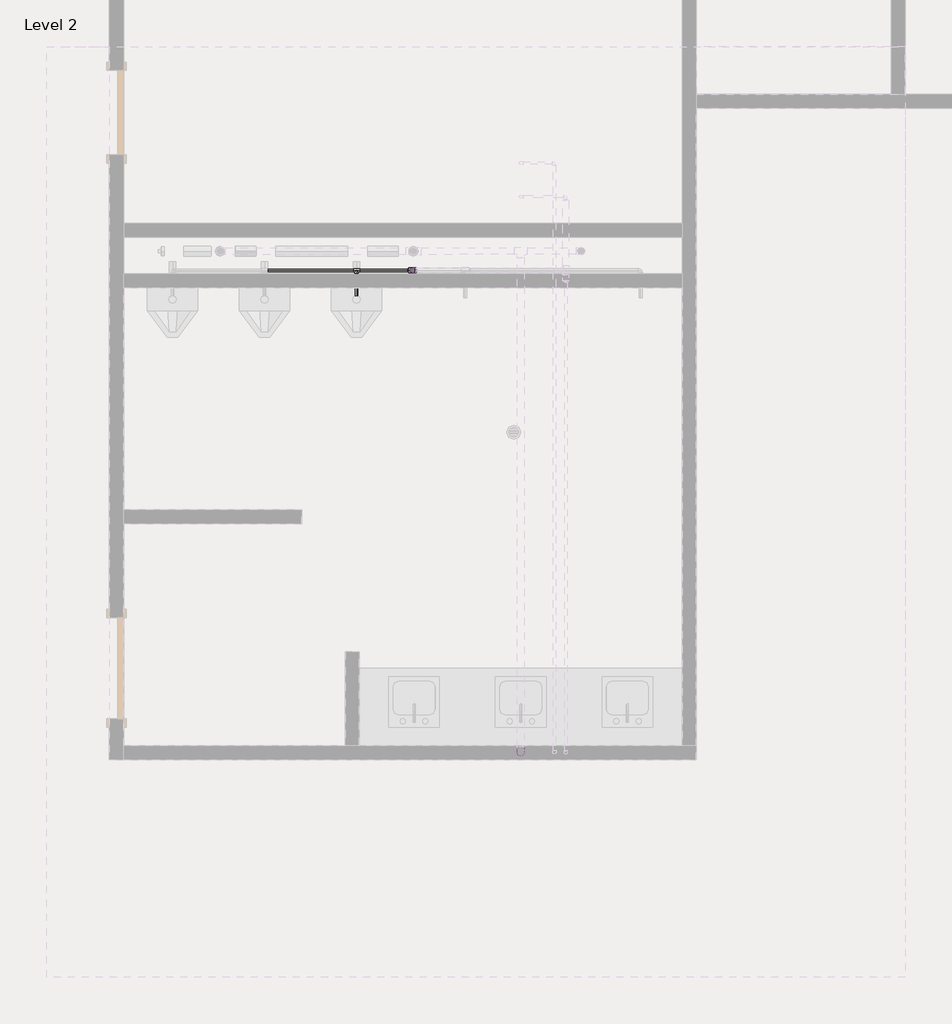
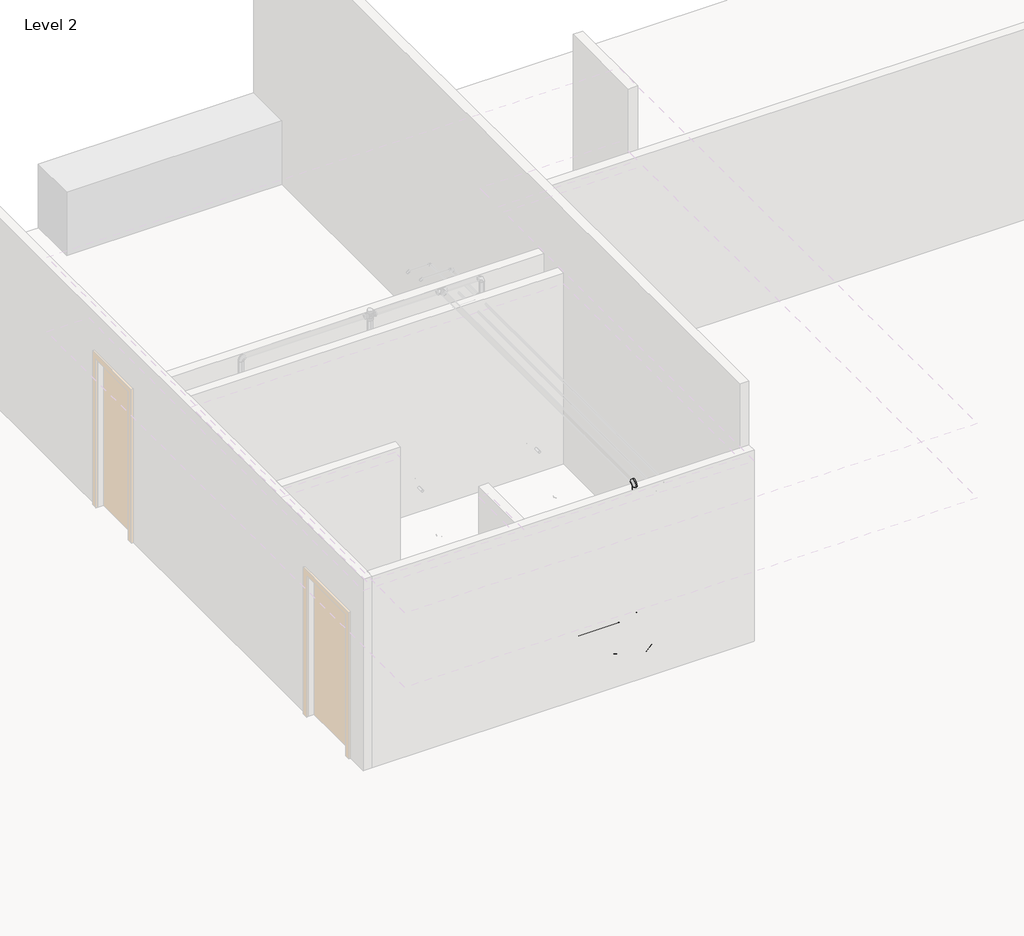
# One storey, part 3 of 5: 26 pipe segments, 24 pipe fittings.
"""IFC4 building model written with IfcOpenShell, lengths in millimetres."""

from ifc_helpers import new_model, si_unit, point, frame, frame_2d, origin, place, context, project, spatial, circle_curve, trimmed, segment, composite_curve, outline, extrude, transform, mapped, element, save
from components import pipe_elbow_standard_aad62f2d, pipe_elbow_standard_feaaf02c, pipe_elbow_standard_557be1fc, pipe_glued_dwv_bend_standard_bfc8288a, pipe_glued_dwv_bend_standard_c24f7a1e, pipe_glued_dwv_double_wye_standard_5fa96171, pipe_pvc_bend_standard_01578e85, pipe_pvc_bend_standard_4dc80f69, pipe_pvc_bend_standard_296dcabe, pipe_pvc_bend_standard_82aeff72, pipe_pvc_transition_eccentric_standard_68aae5c2, pipe_pvc_transition_eccentric_standard_dae55823, pipe_tee_standard_ee363fbf, pipe_tee_standard_7127fd44, pipe_transition_eccentric_standard_d2ed9d0f, pipe_transition_eccentric_standard_c40806be

model = new_model("IFC4")

# Units and contexts
model_context = context("Model", 3, world=origin())
ifc_project = project(units=[si_unit("LENGTHUNIT", "METRE", prefix="MILLI")], contexts=[model_context])

# Site, building, storey
site = spatial("IfcSite", under=ifc_project)
building = spatial("IfcBuilding", under=site)
storey = spatial("IfcBuildingStorey", under=building, Name="Level 2", Elevation=3657.6)

# Pipe fittings
placement = place(None, origin())
pipe_elbow_standard_shape = pipe_elbow_standard_aad62f2d(model_context)
element("IfcPipeFitting", 1, ObjectType="Pipe Elbow : Standard", at=placement, inside=storey, context=model_context, shape_type="MappedRepresentation", body=[
    mapped(pipe_elbow_standard_shape, transform((8848.7157496, 3793.5640359, 4419.6), x_axis=(0.0, 0.0, -1.0), y_axis=(0.0, -1.0, 0.0), z_axis=(-1.0, 0.0, 0.0))),
])
element("IfcPipeFitting", 2, ObjectType="Pipe Elbow : Standard", at=placement, inside=storey, context=model_context, shape_type="MappedRepresentation", body=[
    mapped(pipe_elbow_standard_shape, transform((8086.7157496, 3793.5640359, 4522.7875), x_axis=(0.0, 0.0, -1.0), y_axis=(0.0, -1.0, 0.0), z_axis=(-1.0, 0.0, 0.0))),
])
element("IfcPipeFitting", 3, ObjectType="Pipe Elbow : Standard", at=placement, inside=storey, context=model_context, shape_type="MappedRepresentation", body=[
    mapped(pipe_elbow_standard_shape, transform((8086.7157496, 3590.3640359, 4522.7875), x_axis=(0.0, -1.0, 0.0), y_axis=(1.0, 0.0, 0.0), z_axis=(0.0, 0.0, 1.0))),
])
pipe_elbow_standard_2_shape = pipe_elbow_standard_feaaf02c(model_context)
element("IfcPipeFitting", 4, ObjectType="Pipe Elbow : Standard", at=placement, inside=storey, context=model_context, shape_type="MappedRepresentation", body=[
    mapped(pipe_elbow_standard_2_shape, transform((7464.487817, 7611.3193018, 4679.1562398), x_axis=(0.0, -1.0, 0.0), y_axis=(0.0, 0.0, -1.0), z_axis=(1.0, 0.0, 0.0))),
])
pipe_elbow_standard_3_shape = pipe_elbow_standard_557be1fc(model_context)
element("IfcPipeFitting", 5, ObjectType="Pipe Elbow : Standard", at=placement, inside=storey, context=model_context, shape_type="MappedRepresentation", body=[
    mapped(pipe_elbow_standard_3_shape, transform((7972.4157496, 7874.3862233, 6324.6), x_axis=(0.0, 0.0, 1.0), y_axis=(1.0, 0.0, 0.0), z_axis=(0.0, 1.0, 0.0))),
])
element("IfcPipeFitting", 6, ObjectType="Pipe Elbow : Standard", at=placement, inside=storey, context=model_context, shape_type="MappedRepresentation", body=[
    mapped(pipe_elbow_standard_3_shape, transform((7972.4157496, 7874.3862233, 4013.2), x_axis=(0.0, 0.0, -1.0), y_axis=(1.0, 0.0, 0.0), z_axis=(0.0, -1.0, 0.0))),
])
pipe_glued_dwv_bend_standard_shape = pipe_glued_dwv_bend_standard_bfc8288a(model_context)
element("IfcPipeFitting", 7, ObjectType="Pipe Glued DWV Bend : Standard", at=placement, inside=storey, context=model_context, shape_type="MappedRepresentation", body=[
    mapped(pipe_glued_dwv_bend_standard_shape, transform((8696.3157496, 3510.4099268, 4114.8), x_axis=(0.9999457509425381, 0.0, -0.010416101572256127), y_axis=(-0.010416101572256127, 0.0, -0.9999457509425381), z_axis=(0.0, 1.0, 0.0))),
])
element("IfcPipeFitting", 8, ObjectType="Pipe Glued DWV Bend : Standard", at=placement, inside=storey, context=model_context, shape_type="MappedRepresentation", body=[
    mapped(pipe_glued_dwv_bend_standard_shape, transform((9204.3157496, 3510.4099268, 4114.8), x_axis=(-0.9999457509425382, 0.0, -0.010416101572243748), y_axis=(0.010416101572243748, 0.0, -0.9999457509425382), z_axis=(0.0, -1.0, 0.0))),
])
pipe_glued_dwv_bend_standard_2_shape = pipe_glued_dwv_bend_standard_c24f7a1e(model_context)
element("IfcPipeFitting", 9, ObjectType="Pipe Glued DWV Bend : Standard", at=placement, inside=storey, context=model_context, shape_type="MappedRepresentation", body=[
    mapped(pipe_glued_dwv_bend_standard_2_shape, transform((8950.3157496, 3510.4099268, 3361.0335373), x_axis=(0.0, 0.0, -1.0), y_axis=(1.0, 0.0, 0.0), z_axis=(0.0, -1.0, 0.0))),
])
pipe_glued_dwv_double_wye_standard_shape = pipe_glued_dwv_double_wye_standard_5fa96171(model_context)
element("IfcPipeFitting", 10, ObjectType="Pipe Glued DWV Double Wye : Standard", at=placement, inside=storey, context=model_context, shape_type="MappedRepresentation", body=[
    mapped(pipe_glued_dwv_double_wye_standard_shape, transform((8950.3157496, 3510.4099268, 3860.8), x_axis=(0.0, 0.0, 1.0), y_axis=(-1.0, 0.0, 0.0), z_axis=(0.0, -1.0, 0.0))),
])
pipe_pvc_bend_standard_shape = pipe_pvc_bend_standard_01578e85(model_context)
element("IfcPipeFitting", 11, ObjectType="Pipe PVC Bend : Standard", at=placement, inside=storey, context=model_context, shape_type="MappedRepresentation", body=[
    mapped(pipe_pvc_bend_standard_shape, transform((9915.5157496, 3510.4099268, 4122.2083333), x_axis=(0.9999457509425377, 0.0, 0.010416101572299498), y_axis=(-0.00010848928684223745, 0.9999457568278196, 0.010414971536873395), z_axis=(-0.010415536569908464, -0.010415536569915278, 0.9998915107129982))),
])
pipe_pvc_bend_standard_2_shape = pipe_pvc_bend_standard_4dc80f69(model_context)
element("IfcPipeFitting", 12, ObjectType="Pipe PVC Bend : Standard", at=placement, inside=storey, context=model_context, shape_type="MappedRepresentation", body=[
    mapped(pipe_pvc_bend_standard_2_shape, transform((9915.5157496, 3967.6099268, 4126.9708333), x_axis=(0.0, 0.0, -1.0), y_axis=(0.0, -1.0, 0.0), z_axis=(-1.0, 0.0, 0.0))),
])
element("IfcPipeFitting", 13, ObjectType="Pipe PVC Bend : Standard", at=placement, inside=storey, context=model_context, shape_type="MappedRepresentation", body=[
    mapped(pipe_pvc_bend_standard_2_shape, transform((8950.3157496, 3967.6099268, 4115.2167187), x_axis=(0.0, 0.0, -1.0), y_axis=(0.0, -1.0, 0.0), z_axis=(-1.0, 0.0, 0.0))),
])
pipe_pvc_bend_standard_3_shape = pipe_pvc_bend_standard_296dcabe(model_context)
element("IfcPipeFitting", 14, ObjectType="Pipe PVC Bend : Standard", at=placement, inside=storey, context=model_context, shape_type="MappedRepresentation", body=[
    mapped(pipe_pvc_bend_standard_3_shape, transform((7464.441933, 7645.4382598, 3967.9635079), x_axis=(0.0, 0.0, -1.0), y_axis=(3.4592345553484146e-05, 0.9999999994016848, 0.0), z_axis=(0.9999999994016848, -3.4592345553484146e-05, 0.0))),
])
pipe_pvc_bend_standard_4_shape = pipe_pvc_bend_standard_82aeff72(model_context)
element("IfcPipeFitting", 15, ObjectType="Pipe PVC Bend : Standard", at=placement, inside=storey, context=model_context, shape_type="MappedRepresentation", body=[
    mapped(pipe_pvc_bend_standard_4_shape, transform((8950.2947657, 3510.4099268, 6451.6), x_axis=(0.0, 0.0, 1.0), y_axis=(0.0, 1.0, 0.0), z_axis=(-1.0, 0.0, 0.0))),
])
pipe_pvc_transition_eccentric_standard_shape = pipe_pvc_transition_eccentric_standard_68aae5c2(model_context)
element("IfcPipeFitting", 16, ObjectType="Pipe PVC Transition Eccentric : Standard", at=placement, inside=storey, context=model_context, shape_type="MappedRepresentation", body=[
    mapped(pipe_pvc_transition_eccentric_standard_shape, transform((8950.3157496, 3595.1824268, 4110.4542188), x_axis=(0.0, 0.9999146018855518, 0.013068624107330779), y_axis=(0.0, 0.013068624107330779, -0.9999146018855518), z_axis=(-1.0, 0.0, 0.0))),
])
pipe_pvc_transition_eccentric_standard_2_shape = pipe_pvc_transition_eccentric_standard_dae55823(model_context)
element("IfcPipeFitting", 17, ObjectType="Pipe PVC Transition Eccentric : Standard", at=placement, inside=storey, context=model_context, shape_type="MappedRepresentation", body=[
    mapped(pipe_pvc_transition_eccentric_standard_2_shape, transform((8829.643558, 3510.4099268, 3981.4721916), x_axis=(0.7071067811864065, 0.0, -0.7071067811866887), y_axis=(0.0, -1.0, 0.0), z_axis=(-0.7071067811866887, 0.0, -0.7071067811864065))),
])
element("IfcPipeFitting", 18, ObjectType="Pipe PVC Transition Eccentric : Standard", at=placement, inside=storey, context=model_context, shape_type="MappedRepresentation", body=[
    mapped(pipe_pvc_transition_eccentric_standard_2_shape, transform((9070.9879413, 3510.4099268, 3981.4721916), x_axis=(-0.7071067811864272, 0.0, -0.7071067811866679), y_axis=(0.0, 1.0000000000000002, 0.0), z_axis=(0.7071067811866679, 0.0, -0.7071067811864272))),
])
pipe_tee_standard_shape = pipe_tee_standard_ee363fbf(model_context)
element("IfcPipeFitting", 19, ObjectType="Pipe Tee : Standard", at=placement, inside=storey, context=model_context, shape_type="MappedRepresentation", body=[
    mapped(pipe_tee_standard_shape, transform((8848.7157496, 3641.1640359, 4419.6), x_axis=(-1.0, 0.0, 0.0), y_axis=(0.0, -1.0, 0.0), z_axis=(0.0, 0.0, 1.0))),
])
element("IfcPipeFitting", 20, ObjectType="Pipe Tee : Standard", at=placement, inside=storey, context=model_context, shape_type="MappedRepresentation", body=[
    mapped(pipe_tee_standard_shape, transform((7464.487817, 7874.3862233, 4679.1562398), x_axis=(-1.0, 0.0, 0.0), y_axis=(0.0, 1.0, 0.0), z_axis=(0.0, 0.0, -1.0))),
])
pipe_tee_standard_2_shape = pipe_tee_standard_7127fd44(model_context)
element("IfcPipeFitting", 21, ObjectType="Pipe Tee : Standard", at=placement, inside=storey, context=model_context, shape_type="MappedRepresentation", body=[
    mapped(pipe_tee_standard_2_shape, transform((7972.4157496, 7874.3862233, 4679.1562398), x_axis=(0.0, 0.0, -1.0), y_axis=(1.0, 0.0, 0.0), z_axis=(0.0, -1.0, 0.0))),
])
pipe_transition_eccentric_standard_shape = pipe_transition_eccentric_standard_d2ed9d0f(model_context)
element("IfcPipeFitting", 22, ObjectType="Pipe Transition Eccentric : Standard", at=placement, inside=storey, context=model_context, shape_type="MappedRepresentation", body=[
    mapped(pipe_transition_eccentric_standard_shape, transform((7935.9032496, 7874.3862233, 4679.1562398), x_axis=(-1.0, 0.0, 0.0), y_axis=(0.0, 0.0, 1.0), z_axis=(0.0, 1.0, 0.0))),
])
pipe_transition_eccentric_standard_2_shape = pipe_transition_eccentric_standard_c40806be(model_context)
element("IfcPipeFitting", 23, ObjectType="Pipe Transition Eccentric : Standard", at=placement, inside=storey, context=model_context, shape_type="MappedRepresentation", body=[
    mapped(pipe_transition_eccentric_standard_2_shape, transform((8821.7282496, 3641.1640359, 4419.6), x_axis=(-1.0, 0.0, 0.0), y_axis=(0.0, -1.0, 0.0), z_axis=(0.0, 0.0, 1.0))),
])
element("IfcPipeFitting", 24, ObjectType="Pipe Transition Eccentric : Standard", at=placement, inside=storey, context=model_context, shape_type="MappedRepresentation", body=[
    mapped(pipe_transition_eccentric_standard_2_shape, transform((8848.7157496, 3668.1515359, 4419.6), x_axis=(0.0, 1.0, 0.0), y_axis=(-1.0, 0.0, 0.0), z_axis=(0.0, 0.0, 1.0))),
])

# Pipe segments
element("IfcPipeSegment", 25, ObjectType="Cold Water", at=placement, inside=storey, context=model_context, shape_type="SweptSolid", body=[
    extrude(outline(composite_curve([segment(trimmed(circle_curve(frame_2d((3641.1640359, 4419.6)), 7.9375), [point((3633.2265359, 4419.6))], [point((3641.1640359, 4427.5375))], False, "CARTESIAN"), True, "CONTINUOUS"), segment(trimmed(circle_curve(frame_2d((3641.1640359, 4419.6)), 7.9375), [point((3641.1640359, 4427.5375))], [point((3649.1015359, 4419.6))], False, "CARTESIAN"), True, "CONTINUOUS"), segment(trimmed(circle_curve(frame_2d((3641.1640359, 4419.6)), 7.9375), [point((3649.1015359, 4419.6))], [point((3641.1640359, 4411.6625))], False, "CARTESIAN"), True, "CONTINUOUS"), segment(trimmed(circle_curve(frame_2d((3641.1640359, 4419.6)), 7.9375), [point((3641.1640359, 4411.6625))], [point((3633.2265359, 4419.6))], False, "CARTESIAN"), True, "CONTINUOUS")], self_intersect=False)), frame((9391.4243211, 0.0, 0.0), z_axis=(1.0, 0.0, 0.0), x_axis=(0.0, 1.0, 0.0)), (0.0, 0.0, 1.0), 405.0289285),
])
element("IfcPipeSegment", 26, ObjectType="Cold Water", at=placement, inside=storey, context=model_context, shape_type="SweptSolid", body=[
    extrude(outline(composite_curve([segment(trimmed(circle_curve(frame_2d((4419.6, 9813.9157496)), 7.9375), [point((4419.6, 9805.9782496))], [point((4411.6625, 9813.9157496))], False, "CARTESIAN"), True, "CONTINUOUS"), segment(trimmed(circle_curve(frame_2d((4419.6, 9813.9157496)), 7.9375), [point((4411.6625, 9813.9157496))], [point((4419.6, 9821.8532496))], False, "CARTESIAN"), True, "CONTINUOUS"), segment(trimmed(circle_curve(frame_2d((4419.6, 9813.9157496)), 7.9375), [point((4419.6, 9821.8532496))], [point((4427.5375, 9813.9157496))], False, "CARTESIAN"), True, "CONTINUOUS"), segment(trimmed(circle_curve(frame_2d((4419.6, 9813.9157496)), 7.9375), [point((4427.5375, 9813.9157496))], [point((4419.6, 9805.9782496))], False, "CARTESIAN"), True, "CONTINUOUS")], self_intersect=False)), frame((0.0, 3658.6265359, 0.0), z_axis=(0.0, 1.0, 0.0), x_axis=(0.0, 0.0, 1.0)), (0.0, 0.0, 1.0), 117.475),
])
element("IfcPipeSegment", 27, ObjectType="Cold Water", at=placement, inside=storey, context=model_context, shape_type="SweptSolid", body=[
    extrude(outline(composite_curve([segment(trimmed(circle_curve(frame_2d((9813.9157496, 3793.5640359)), 7.9375), [point((9821.8532496, 3793.5640359))], [point((9813.9157496, 3785.6265359))], False, "CARTESIAN"), True, "CONTINUOUS"), segment(trimmed(circle_curve(frame_2d((9813.9157496, 3793.5640359)), 7.9375), [point((9813.9157496, 3785.6265359))], [point((9805.9782496, 3793.5640359))], False, "CARTESIAN"), True, "CONTINUOUS"), segment(trimmed(circle_curve(frame_2d((9813.9157496, 3793.5640359)), 7.9375), [point((9805.9782496, 3793.5640359))], [point((9813.9157496, 3801.5015359))], False, "CARTESIAN"), True, "CONTINUOUS"), segment(trimmed(circle_curve(frame_2d((9813.9157496, 3793.5640359)), 7.9375), [point((9813.9157496, 3801.5015359))], [point((9821.8532496, 3793.5640359))], False, "CARTESIAN"), True, "CONTINUOUS")], self_intersect=False)), frame((0.0, 0.0, 4437.0625), z_axis=(0.0, 0.0, 1.0), x_axis=(1.0, 0.0, 0.0)), (0.0, 0.0, 1.0), 134.9375),
])
element("IfcPipeSegment", 28, ObjectType="Cold Water", at=placement, inside=storey, context=model_context, shape_type="SweptSolid", body=[
    extrude(outline(composite_curve([segment(trimmed(circle_curve(frame_2d((8848.7157496, 3793.5640359)), 7.9375), [point((8856.6532496, 3793.5640359))], [point((8848.7157496, 3785.6265359))], False, "CARTESIAN"), True, "CONTINUOUS"), segment(trimmed(circle_curve(frame_2d((8848.7157496, 3793.5640359)), 7.9375), [point((8848.7157496, 3785.6265359))], [point((8840.7782496, 3793.5640359))], False, "CARTESIAN"), True, "CONTINUOUS"), segment(trimmed(circle_curve(frame_2d((8848.7157496, 3793.5640359)), 7.9375), [point((8840.7782496, 3793.5640359))], [point((8848.7157496, 3801.5015359))], False, "CARTESIAN"), True, "CONTINUOUS"), segment(trimmed(circle_curve(frame_2d((8848.7157496, 3793.5640359)), 7.9375), [point((8848.7157496, 3801.5015359))], [point((8856.6532496, 3793.5640359))], False, "CARTESIAN"), True, "CONTINUOUS")], self_intersect=False)), frame((0.0, 0.0, 4437.0625), z_axis=(0.0, 0.0, 1.0), x_axis=(1.0, 0.0, 0.0)), (0.0, 0.0, 1.0), 134.9375),
])
element("IfcPipeSegment", 29, ObjectType="Cold Water", at=placement, inside=storey, context=model_context, shape_type="SweptSolid", body=[
    extrude(outline(composite_curve([segment(trimmed(circle_curve(frame_2d((4419.6, 8848.7157496)), 7.9375), [point((4419.6, 8840.7782496))], [point((4411.6625, 8848.7157496))], False, "CARTESIAN"), True, "CONTINUOUS"), segment(trimmed(circle_curve(frame_2d((4419.6, 8848.7157496)), 7.9375), [point((4411.6625, 8848.7157496))], [point((4419.6, 8856.6532496))], False, "CARTESIAN"), True, "CONTINUOUS"), segment(trimmed(circle_curve(frame_2d((4419.6, 8848.7157496)), 7.9375), [point((4419.6, 8856.6532496))], [point((4427.5375, 8848.7157496))], False, "CARTESIAN"), True, "CONTINUOUS"), segment(trimmed(circle_curve(frame_2d((4419.6, 8848.7157496)), 7.9375), [point((4427.5375, 8848.7157496))], [point((4419.6, 8840.7782496))], False, "CARTESIAN"), True, "CONTINUOUS")], self_intersect=False)), frame((0.0, 3673.7077859, 0.0), z_axis=(0.0, 1.0, 0.0), x_axis=(0.0, 0.0, 1.0)), (0.0, 0.0, 1.0), 102.39375),
])
element("IfcPipeSegment", 30, ObjectType="Cold Water", at=placement, inside=storey, context=model_context, shape_type="SweptSolid", body=[
    extrude(outline(composite_curve([segment(trimmed(circle_curve(frame_2d((3641.1640359, 4419.6)), 7.9375), [point((3633.2265359, 4419.6))], [point((3641.1640359, 4427.5375))], False, "CARTESIAN"), True, "CONTINUOUS"), segment(trimmed(circle_curve(frame_2d((3641.1640359, 4419.6)), 7.9375), [point((3641.1640359, 4427.5375))], [point((3649.1015359, 4419.6))], False, "CARTESIAN"), True, "CONTINUOUS"), segment(trimmed(circle_curve(frame_2d((3641.1640359, 4419.6)), 7.9375), [point((3649.1015359, 4419.6))], [point((3641.1640359, 4411.6625))], False, "CARTESIAN"), True, "CONTINUOUS"), segment(trimmed(circle_curve(frame_2d((3641.1640359, 4419.6)), 7.9375), [point((3641.1640359, 4411.6625))], [point((3633.2265359, 4419.6))], False, "CARTESIAN"), True, "CONTINUOUS")], self_intersect=False)), frame((7900.9782496, 0.0, 0.0), z_axis=(1.0, 0.0, 0.0), x_axis=(0.0, 1.0, 0.0)), (0.0, 0.0, 1.0), 915.19375),
])
element("IfcPipeSegment", 31, ObjectType="Cold Water", at=placement, inside=storey, context=model_context, shape_type="SweptSolid", body=[
    extrude(outline(composite_curve([segment(trimmed(circle_curve(frame_2d((7972.4157496, 7874.3862233)), 20.6375), [point((7951.7782496, 7874.3862233))], [point((7972.4157496, 7895.0237233))], False, "CARTESIAN"), True, "CONTINUOUS"), segment(trimmed(circle_curve(frame_2d((7972.4157496, 7874.3862233)), 20.6375), [point((7972.4157496, 7895.0237233))], [point((7993.0532496, 7874.3862233))], False, "CARTESIAN"), True, "CONTINUOUS"), segment(trimmed(circle_curve(frame_2d((7972.4157496, 7874.3862233)), 20.6375), [point((7993.0532496, 7874.3862233))], [point((7972.4157496, 7853.7487233))], False, "CARTESIAN"), True, "CONTINUOUS"), segment(trimmed(circle_curve(frame_2d((7972.4157496, 7874.3862233)), 20.6375), [point((7972.4157496, 7853.7487233))], [point((7951.7782496, 7874.3862233))], False, "CARTESIAN"), True, "CONTINUOUS")], self_intersect=False)), frame((0.0, 0.0, 4715.6687398), z_axis=(0.0, 0.0, 1.0), x_axis=(1.0, 0.0, 0.0)), (0.0, 0.0, 1.0), 1578.7687602),
])
element("IfcPipeSegment", 32, ObjectType="Cold Water", at=placement, inside=storey, context=model_context, shape_type="SweptSolid", body=[
    extrude(outline(composite_curve([segment(trimmed(circle_curve(frame_2d((7972.4157496, 7874.3862233)), 20.6375), [point((7951.7782496, 7874.3862233))], [point((7972.4157496, 7895.0237233))], False, "CARTESIAN"), True, "CONTINUOUS"), segment(trimmed(circle_curve(frame_2d((7972.4157496, 7874.3862233)), 20.6375), [point((7972.4157496, 7895.0237233))], [point((7993.0532496, 7874.3862233))], False, "CARTESIAN"), True, "CONTINUOUS"), segment(trimmed(circle_curve(frame_2d((7972.4157496, 7874.3862233)), 20.6375), [point((7993.0532496, 7874.3862233))], [point((7972.4157496, 7853.7487233))], False, "CARTESIAN"), True, "CONTINUOUS"), segment(trimmed(circle_curve(frame_2d((7972.4157496, 7874.3862233)), 20.6375), [point((7972.4157496, 7853.7487233))], [point((7951.7782496, 7874.3862233))], False, "CARTESIAN"), True, "CONTINUOUS")], self_intersect=False)), frame((0.0, 0.0, 4043.3625), z_axis=(0.0, 0.0, 1.0), x_axis=(1.0, 0.0, 0.0)), (0.0, 0.0, 1.0), 599.2812398),
])
element("IfcPipeSegment", 33, ObjectType="Cold Water", at=placement, inside=storey, context=model_context, shape_type="SweptSolid", body=[
    extrude(outline(composite_curve([segment(trimmed(circle_curve(frame_2d((7874.3862233, 4679.1562398)), 11.1125), [point((7885.4987233, 4679.1562398))], [point((7874.3862233, 4668.0437398))], False, "CARTESIAN"), True, "CONTINUOUS"), segment(trimmed(circle_curve(frame_2d((7874.3862233, 4679.1562398)), 11.1125), [point((7874.3862233, 4668.0437398))], [point((7863.2737233, 4679.1562398))], False, "CARTESIAN"), True, "CONTINUOUS"), segment(trimmed(circle_curve(frame_2d((7874.3862233, 4679.1562398)), 11.1125), [point((7863.2737233, 4679.1562398))], [point((7874.3862233, 4690.2687398))], False, "CARTESIAN"), True, "CONTINUOUS"), segment(trimmed(circle_curve(frame_2d((7874.3862233, 4679.1562398)), 11.1125), [point((7874.3862233, 4690.2687398))], [point((7885.4987233, 4679.1562398))], False, "CARTESIAN"), True, "CONTINUOUS")], self_intersect=False)), frame((6659.6250309, 0.0, 0.0), z_axis=(1.0, 0.0, 0.0), x_axis=(0.0, 1.0, 0.0)), (0.0, 0.0, 1.0), 777.8752861),
])
element("IfcPipeSegment", 34, ObjectType="Cold Water", at=placement, inside=storey, context=model_context, shape_type="SweptSolid", body=[
    extrude(outline(composite_curve([segment(trimmed(circle_curve(frame_2d((7464.487817, 7611.3193018)), 11.1125), [point((7453.375317, 7611.3193018))], [point((7464.487817, 7622.4318018))], False, "CARTESIAN"), True, "CONTINUOUS"), segment(trimmed(circle_curve(frame_2d((7464.487817, 7611.3193018)), 11.1125), [point((7464.487817, 7622.4318018))], [point((7475.600317, 7611.3193018))], False, "CARTESIAN"), True, "CONTINUOUS"), segment(trimmed(circle_curve(frame_2d((7464.487817, 7611.3193018)), 11.1125), [point((7475.600317, 7611.3193018))], [point((7464.487817, 7600.2068018))], False, "CARTESIAN"), True, "CONTINUOUS"), segment(trimmed(circle_curve(frame_2d((7464.487817, 7611.3193018)), 11.1125), [point((7464.487817, 7600.2068018))], [point((7453.375317, 7611.3193018))], False, "CARTESIAN"), True, "CONTINUOUS")], self_intersect=False)), frame((0.0, 0.0, 4633.11875), z_axis=(0.0, 0.0, 1.0), x_axis=(1.0, 0.0, 0.0)), (0.0, 0.0, 1.0), 25.3999898),
])
element("IfcPipeSegment", 35, ObjectType="Cold Water", at=placement, inside=storey, context=model_context, shape_type="SweptSolid", body=[
    extrude(outline(composite_curve([segment(trimmed(circle_curve(frame_2d((4679.1562398, 7464.487817)), 11.1125), [point((4679.1562398, 7475.600317))], [point((4690.2687398, 7464.487817))], False, "CARTESIAN"), True, "CONTINUOUS"), segment(trimmed(circle_curve(frame_2d((4679.1562398, 7464.487817)), 11.1125), [point((4690.2687398, 7464.487817))], [point((4679.1562398, 7453.375317))], False, "CARTESIAN"), True, "CONTINUOUS"), segment(trimmed(circle_curve(frame_2d((4679.1562398, 7464.487817)), 11.1125), [point((4679.1562398, 7453.375317))], [point((4668.0437398, 7464.487817))], False, "CARTESIAN"), True, "CONTINUOUS"), segment(trimmed(circle_curve(frame_2d((4679.1562398, 7464.487817)), 11.1125), [point((4668.0437398, 7464.487817))], [point((4679.1562398, 7475.600317))], False, "CARTESIAN"), True, "CONTINUOUS")], self_intersect=False)), frame((0.0, 7631.9568018, 0.0), z_axis=(0.0, 1.0, 0.0), x_axis=(0.0, 0.0, 1.0)), (0.0, 0.0, 1.0), 215.4419215),
])
element("IfcPipeSegment", 36, ObjectType="Cold Water", at=placement, inside=storey, context=model_context, shape_type="SweptSolid", body=[
    extrude(outline(composite_curve([segment(trimmed(circle_curve(frame_2d((7874.3862233, 4679.1562398)), 11.1125), [point((7885.4987233, 4679.1562398))], [point((7874.3862233, 4668.0437398))], False, "CARTESIAN"), True, "CONTINUOUS"), segment(trimmed(circle_curve(frame_2d((7874.3862233, 4679.1562398)), 11.1125), [point((7874.3862233, 4668.0437398))], [point((7863.2737233, 4679.1562398))], False, "CARTESIAN"), True, "CONTINUOUS"), segment(trimmed(circle_curve(frame_2d((7874.3862233, 4679.1562398)), 11.1125), [point((7863.2737233, 4679.1562398))], [point((7874.3862233, 4690.2687398))], False, "CARTESIAN"), True, "CONTINUOUS"), segment(trimmed(circle_curve(frame_2d((7874.3862233, 4679.1562398)), 11.1125), [point((7874.3862233, 4690.2687398))], [point((7885.4987233, 4679.1562398))], False, "CARTESIAN"), True, "CONTINUOUS")], self_intersect=False)), frame((7491.475317, 0.0, 0.0), z_axis=(1.0, 0.0, 0.0), x_axis=(0.0, 1.0, 0.0)), (0.0, 0.0, 1.0), 434.1091827),
])
element("IfcPipeSegment", 37, ObjectType="Hot Water", at=placement, inside=storey, context=model_context, shape_type="SweptSolid", body=[
    extrude(outline(composite_curve([segment(trimmed(circle_curve(frame_2d((4522.7875, 8086.7157496)), 7.9375), [point((4522.7875, 8078.7782496))], [point((4514.85, 8086.7157496))], False, "CARTESIAN"), True, "CONTINUOUS"), segment(trimmed(circle_curve(frame_2d((4522.7875, 8086.7157496)), 7.9375), [point((4514.85, 8086.7157496))], [point((4522.7875, 8094.6532496))], False, "CARTESIAN"), True, "CONTINUOUS"), segment(trimmed(circle_curve(frame_2d((4522.7875, 8086.7157496)), 7.9375), [point((4522.7875, 8094.6532496))], [point((4530.725, 8086.7157496))], False, "CARTESIAN"), True, "CONTINUOUS"), segment(trimmed(circle_curve(frame_2d((4522.7875, 8086.7157496)), 7.9375), [point((4530.725, 8086.7157496))], [point((4522.7875, 8078.7782496))], False, "CARTESIAN"), True, "CONTINUOUS")], self_intersect=False)), frame((0.0, 3607.8265359, 0.0), z_axis=(0.0, 1.0, 0.0), x_axis=(0.0, 0.0, 1.0)), (0.0, 0.0, 1.0), 168.275),
])
element("IfcPipeSegment", 38, ObjectType="Hot Water", at=placement, inside=storey, context=model_context, shape_type="SweptSolid", body=[
    extrude(outline(composite_curve([segment(trimmed(circle_curve(frame_2d((3590.3640359, 4522.7875)), 7.9375), [point((3582.4265359, 4522.7875))], [point((3590.3640359, 4530.725))], False, "CARTESIAN"), True, "CONTINUOUS"), segment(trimmed(circle_curve(frame_2d((3590.3640359, 4522.7875)), 7.9375), [point((3590.3640359, 4530.725))], [point((3598.3015359, 4522.7875))], False, "CARTESIAN"), True, "CONTINUOUS"), segment(trimmed(circle_curve(frame_2d((3590.3640359, 4522.7875)), 7.9375), [point((3598.3015359, 4522.7875))], [point((3590.3640359, 4514.85))], False, "CARTESIAN"), True, "CONTINUOUS"), segment(trimmed(circle_curve(frame_2d((3590.3640359, 4522.7875)), 7.9375), [point((3590.3640359, 4514.85))], [point((3582.4265359, 4522.7875))], False, "CARTESIAN"), True, "CONTINUOUS")], self_intersect=False)), frame((8104.1782496, 0.0, 0.0), z_axis=(1.0, 0.0, 0.0), x_axis=(0.0, 1.0, 0.0)), (0.0, 0.0, 1.0), 923.925),
])
element("IfcPipeSegment", 39, ObjectType="PVC Sanitary", at=placement, inside=storey, context=model_context, shape_type="SweptSolid", body=[
    extrude(outline(composite_curve([segment(trimmed(circle_curve(frame_2d((0.0, 30.1625)), 30.1625), [point((0.0, 60.325))], [point((30.1625, 30.1625))], False, "CARTESIAN"), True, "CONTINUOUS"), segment(trimmed(circle_curve(frame_2d((0.0, 30.1625)), 30.1625), [point((30.1625, 30.1625))], [point((0.0, 0.0))], False, "CARTESIAN"), True, "CONTINUOUS"), segment(trimmed(circle_curve(frame_2d((0.0, 30.1625)), 30.1625), [point((0.0, 0.0))], [point((-30.1624999, 30.1625))], False, "CARTESIAN"), True, "CONTINUOUS"), segment(trimmed(circle_curve(frame_2d((0.0, 30.1625)), 30.1625), [point((-30.1624999, 30.1625))], [point((0.0, 60.325))], False, "CARTESIAN"), True, "CONTINUOUS")], self_intersect=False)), frame((10427.0955157, 3480.2481959, 3345.8862182), z_axis=(-0.9999461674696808, 0.0, 0.010376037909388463), x_axis=(0.010376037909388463, 0.0, 0.9999461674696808)), (0.0, 0.0, 1.0), 1336.7826028),
])
element("IfcPipeSegment", 40, ObjectType="PVC Sanitary", at=placement, inside=storey, context=model_context, shape_type="SweptSolid", body=[
    extrude(outline(composite_curve([segment(trimmed(circle_curve(frame_2d((8950.3157496, 3967.6099268)), 24.13), [point((8974.4457496, 3967.6099268))], [point((8950.3157496, 3943.4799268))], False, "CARTESIAN"), True, "CONTINUOUS"), segment(trimmed(circle_curve(frame_2d((8950.3157496, 3967.6099268)), 24.13), [point((8950.3157496, 3943.4799268))], [point((8926.1857496, 3967.6099268))], False, "CARTESIAN"), True, "CONTINUOUS"), segment(trimmed(circle_curve(frame_2d((8950.3157496, 3967.6099268)), 24.13), [point((8926.1857496, 3967.6099268))], [point((8950.3157496, 3991.7399268))], False, "CARTESIAN"), True, "CONTINUOUS"), segment(trimmed(circle_curve(frame_2d((8950.3157496, 3967.6099268)), 24.13), [point((8950.3157496, 3991.7399268))], [point((8974.4457496, 3967.6099268))], False, "CARTESIAN"), True, "CONTINUOUS")], self_intersect=False)), frame((0.0, 0.0, 4154.8071704), z_axis=(0.0, 0.0, 1.0), x_axis=(1.0, 0.0, 0.0)), (0.0, 0.0, 1.0), 204.4678296),
])
element("IfcPipeSegment", 41, ObjectType="PVC Sanitary", at=placement, inside=storey, context=model_context, shape_type="SweptSolid", body=[
    extrude(outline(composite_curve([segment(trimmed(circle_curve(frame_2d((9915.5157496, 3967.6099268)), 24.13), [point((9939.6457496, 3967.6099268))], [point((9915.5157496, 3943.4799268))], False, "CARTESIAN"), True, "CONTINUOUS"), segment(trimmed(circle_curve(frame_2d((9915.5157496, 3967.6099268)), 24.13), [point((9915.5157496, 3943.4799268))], [point((9891.3857496, 3967.6099268))], False, "CARTESIAN"), True, "CONTINUOUS"), segment(trimmed(circle_curve(frame_2d((9915.5157496, 3967.6099268)), 24.13), [point((9891.3857496, 3967.6099268))], [point((9915.5157496, 3991.7399268))], False, "CARTESIAN"), True, "CONTINUOUS"), segment(trimmed(circle_curve(frame_2d((9915.5157496, 3967.6099268)), 24.13), [point((9915.5157496, 3991.7399268))], [point((9939.6457496, 3967.6099268))], False, "CARTESIAN"), True, "CONTINUOUS")], self_intersect=False)), frame((0.0, 0.0, 4166.5612849), z_axis=(0.0, 0.0, 1.0), x_axis=(1.0, 0.0, 0.0)), (0.0, 0.0, 1.0), 192.7137151),
])
element("IfcPipeSegment", 42, ObjectType="PVC Sanitary", at=placement, inside=storey, context=model_context, shape_type="SweptSolid", body=[
    extrude(outline(composite_curve([segment(trimmed(circle_curve(frame_2d((0.0, -24.13)), 24.13), [point((0.0, 0.0))], [point((24.13, -24.13))], False, "CARTESIAN"), True, "CONTINUOUS"), segment(trimmed(circle_curve(frame_2d((0.0, -24.13)), 24.13), [point((24.13, -24.13))], [point((0.0, -48.26))], False, "CARTESIAN"), True, "CONTINUOUS"), segment(trimmed(circle_curve(frame_2d((0.0, -24.13)), 24.13), [point((0.0, -48.26))], [point((-24.1300001, -24.13))], False, "CARTESIAN"), True, "CONTINUOUS"), segment(trimmed(circle_curve(frame_2d((0.0, -24.13)), 24.13), [point((-24.1300001, -24.13))], [point((0.0, 0.0))], False, "CARTESIAN"), True, "CONTINUOUS")], self_intersect=False)), frame((9070.9879413, 3534.5399268, 3981.4721916), z_axis=(0.7071067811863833, 0.0, 0.7071067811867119), x_axis=(0.7071067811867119, 0.0, -0.7071067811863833)), (0.0, 0.0, 1.0), 130.4581694),
])
element("IfcPipeSegment", 43, ObjectType="PVC Sanitary", at=placement, inside=storey, context=model_context, shape_type="SweptSolid", body=[
    extrude(outline(composite_curve([segment(trimmed(circle_curve(frame_2d((0.0, 24.13)), 24.13), [point((0.0, 0.0))], [point((-24.13, 24.13))], False, "CARTESIAN"), True, "CONTINUOUS"), segment(trimmed(circle_curve(frame_2d((0.0, 24.13)), 24.13), [point((-24.13, 24.13))], [point((0.0, 48.26))], False, "CARTESIAN"), True, "CONTINUOUS"), segment(trimmed(circle_curve(frame_2d((0.0, 24.13)), 24.13), [point((0.0, 48.26))], [point((24.13, 24.13))], False, "CARTESIAN"), True, "CONTINUOUS"), segment(trimmed(circle_curve(frame_2d((0.0, 24.13)), 24.13), [point((24.13, 24.13))], [point((0.0, 0.0))], False, "CARTESIAN"), True, "CONTINUOUS")], self_intersect=False)), frame((9262.4084235, 3486.2799268, 4115.405132), z_axis=(0.9999457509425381, 0.0, 0.010416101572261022), x_axis=(0.010416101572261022, 0.0, -0.9999457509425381)), (0.0, 0.0, 1.0), 613.1420987),
])
element("IfcPipeSegment", 44, ObjectType="PVC Sanitary", at=placement, inside=storey, context=model_context, shape_type="SweptSolid", body=[
    extrude(outline(composite_curve([segment(trimmed(circle_curve(frame_2d((0.0, 24.1299999)), 24.13), [point((24.13, 24.1299999))], [point((0.0, 0.0))], False, "CARTESIAN"), True, "CONTINUOUS"), segment(trimmed(circle_curve(frame_2d((0.0, 24.1299999)), 24.13), [point((0.0, 0.0))], [point((-24.13, 24.1299999))], False, "CARTESIAN"), True, "CONTINUOUS"), segment(trimmed(circle_curve(frame_2d((0.0, 24.1299999)), 24.13), [point((-24.13, 24.1299999))], [point((0.0, 48.26))], False, "CARTESIAN"), True, "CONTINUOUS"), segment(trimmed(circle_curve(frame_2d((0.0, 24.1299999)), 24.13), [point((0.0, 48.26))], [point((24.13, 24.1299999))], False, "CARTESIAN"), True, "CONTINUOUS")], self_intersect=False)), frame((9915.5157496, 3550.1570761, 4146.7536752), z_axis=(0.0, 0.9999457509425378, 0.010416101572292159), x_axis=(1.0, 0.0, 0.0)), (0.0, 0.0, 1.0), 377.6336925),
])
element("IfcPipeSegment", 45, ObjectType="PVC Sanitary", at=placement, inside=storey, context=model_context, shape_type="SweptSolid", body=[
    extrude(outline(composite_curve([segment(trimmed(circle_curve(frame_2d((8950.3157496, 3510.4099268)), 30.1625), [point((8920.1532496, 3510.4099268))], [point((8950.3157496, 3540.5724268))], False, "CARTESIAN"), True, "CONTINUOUS"), segment(trimmed(circle_curve(frame_2d((8950.3157496, 3510.4099268)), 30.1625), [point((8950.3157496, 3540.5724268))], [point((8980.4782496, 3510.4099268))], False, "CARTESIAN"), True, "CONTINUOUS"), segment(trimmed(circle_curve(frame_2d((8950.3157496, 3510.4099268)), 30.1625), [point((8980.4782496, 3510.4099268))], [point((8950.3157496, 3480.2474268))], False, "CARTESIAN"), True, "CONTINUOUS"), segment(trimmed(circle_curve(frame_2d((8950.3157496, 3510.4099268)), 30.1625), [point((8950.3157496, 3480.2474268))], [point((8920.1532496, 3510.4099268))], False, "CARTESIAN"), True, "CONTINUOUS")], self_intersect=False)), frame((0.0, 0.0, 3976.6875), z_axis=(0.0, 0.0, 1.0), x_axis=(1.0, 0.0, 0.0)), (0.0, 0.0, 1.0), 48.9942187),
])
element("IfcPipeSegment", 46, ObjectType="PVC Sanitary", at=placement, inside=storey, context=model_context, shape_type="SweptSolid", body=[
    extrude(outline(composite_curve([segment(trimmed(circle_curve(frame_2d((0.0, 24.13)), 24.13), [point((24.13, 24.13))], [point((0.0, 0.0))], False, "CARTESIAN"), True, "CONTINUOUS"), segment(trimmed(circle_curve(frame_2d((0.0, 24.13)), 24.13), [point((0.0, 0.0))], [point((-24.13, 24.13))], False, "CARTESIAN"), True, "CONTINUOUS"), segment(trimmed(circle_curve(frame_2d((0.0, 24.13)), 24.13), [point((-24.13, 24.13))], [point((0.0, 48.26))], False, "CARTESIAN"), True, "CONTINUOUS"), segment(trimmed(circle_curve(frame_2d((0.0, 24.13)), 24.13), [point((0.0, 48.26))], [point((24.13, 24.13))], False, "CARTESIAN"), True, "CONTINUOUS")], self_intersect=False)), frame((8950.3157496, 3649.6311537, 4135.2979103), z_axis=(0.0, 0.999914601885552, 0.013068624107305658), x_axis=(1.0, 0.0, 0.0)), (0.0, 0.0, 1.0), 278.0988724),
])
element("IfcPipeSegment", 47, ObjectType="PVC Sanitary", at=placement, inside=storey, context=model_context, shape_type="SweptSolid", body=[
    extrude(outline(composite_curve([segment(trimmed(circle_curve(frame_2d((0.0, -24.13)), 24.13), [point((0.0, -48.26))], [point((-24.13, -24.13))], False, "CARTESIAN"), True, "CONTINUOUS"), segment(trimmed(circle_curve(frame_2d((0.0, -24.13)), 24.13), [point((-24.13, -24.13))], [point((0.0, 0.0))], False, "CARTESIAN"), True, "CONTINUOUS"), segment(trimmed(circle_curve(frame_2d((0.0, -24.13)), 24.13), [point((0.0, 0.0))], [point((24.13, -24.13))], False, "CARTESIAN"), True, "CONTINUOUS"), segment(trimmed(circle_curve(frame_2d((0.0, -24.13)), 24.13), [point((24.13, -24.13))], [point((0.0, -48.26))], False, "CARTESIAN"), True, "CONTINUOUS")], self_intersect=False)), frame((8829.643558, 3534.5399268, 3981.4721916), z_axis=(-0.7071067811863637, 0.0, 0.7071067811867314), x_axis=(0.7071067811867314, 0.0, 0.7071067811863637)), (0.0, 0.0, 1.0), 130.4581694),
])
element("IfcPipeSegment", 48, ObjectType="PVC Sanitary", at=placement, inside=storey, context=model_context, shape_type="SweptSolid", body=[
    extrude(outline(composite_curve([segment(trimmed(circle_curve(frame_2d((0.0, 24.13)), 24.13), [point((0.0, 48.26))], [point((24.13, 24.13))], False, "CARTESIAN"), True, "CONTINUOUS"), segment(trimmed(circle_curve(frame_2d((0.0, 24.13)), 24.13), [point((24.13, 24.13))], [point((0.0, 0.0))], False, "CARTESIAN"), True, "CONTINUOUS"), segment(trimmed(circle_curve(frame_2d((0.0, 24.13)), 24.13), [point((0.0, 0.0))], [point((-24.13, 24.13))], False, "CARTESIAN"), True, "CONTINUOUS"), segment(trimmed(circle_curve(frame_2d((0.0, 24.13)), 24.13), [point((-24.13, 24.13))], [point((0.0, 48.26))], False, "CARTESIAN"), True, "CONTINUOUS")], self_intersect=False)), frame((8638.2230758, 3486.2799268, 4115.405132), z_axis=(-0.999945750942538, 0.0, 0.010416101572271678), x_axis=(0.010416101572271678, 0.0, 0.999945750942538)), (0.0, 0.0, 1.0), 613.1420987),
])
element("IfcPipeSegment", 49, ObjectType="PVC Sanitary", at=placement, inside=storey, context=model_context, shape_type="SweptSolid", body=[
    extrude(outline(composite_curve([segment(trimmed(circle_curve(frame_2d((8950.3157496, 3510.4099268)), 30.1625), [point((8920.1532496, 3510.4099268))], [point((8950.3157496, 3540.5724268))], False, "CARTESIAN"), True, "CONTINUOUS"), segment(trimmed(circle_curve(frame_2d((8950.3157496, 3510.4099268)), 30.1625), [point((8950.3157496, 3540.5724268))], [point((8980.4782496, 3510.4099268))], False, "CARTESIAN"), True, "CONTINUOUS"), segment(trimmed(circle_curve(frame_2d((8950.3157496, 3510.4099268)), 30.1625), [point((8980.4782496, 3510.4099268))], [point((8950.3157496, 3480.2474268))], False, "CARTESIAN"), True, "CONTINUOUS"), segment(trimmed(circle_curve(frame_2d((8950.3157496, 3510.4099268)), 30.1625), [point((8950.3157496, 3480.2474268))], [point((8920.1532496, 3510.4099268))], False, "CARTESIAN"), True, "CONTINUOUS")], self_intersect=False)), frame((0.0, 0.0, 3501.1083709), z_axis=(0.0, 0.0, 1.0), x_axis=(1.0, 0.0, 0.0)), (0.0, 0.0, 1.0), 300.9541291),
])
element("IfcPipeSegment", 50, ObjectType="PVC Sanitary Vent", at=placement, inside=storey, context=model_context, shape_type="SweptSolid", body=[
    extrude(outline(composite_curve([segment(trimmed(circle_curve(frame_2d((0.0, 30.1625)), 30.1625), [point((-30.1625, 30.1625))], [point((0.0, 60.325))], False, "CARTESIAN"), True, "CONTINUOUS"), segment(trimmed(circle_curve(frame_2d((0.0, 30.1625)), 30.1625), [point((0.0, 60.325))], [point((30.1625, 30.1625))], False, "CARTESIAN"), True, "CONTINUOUS"), segment(trimmed(circle_curve(frame_2d((0.0, 30.1625)), 30.1625), [point((30.1625, 30.1625))], [point((0.0, 0.0))], False, "CARTESIAN"), True, "CONTINUOUS"), segment(trimmed(circle_curve(frame_2d((0.0, 30.1625)), 30.1625), [point((0.0, 0.0))], [point((-30.1625, 30.1625))], False, "CARTESIAN"), True, "CONTINUOUS")], self_intersect=False)), frame((8950.3157496, 3480.2474268, 4166.9692188), z_axis=(-9.373719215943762e-06, 0.0, 0.9999999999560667), x_axis=(0.9999999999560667, 0.0, 9.373719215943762e-06)), (0.0, 0.0, 1.0), 2238.5932813),
])

save(model, "model.ifc")
